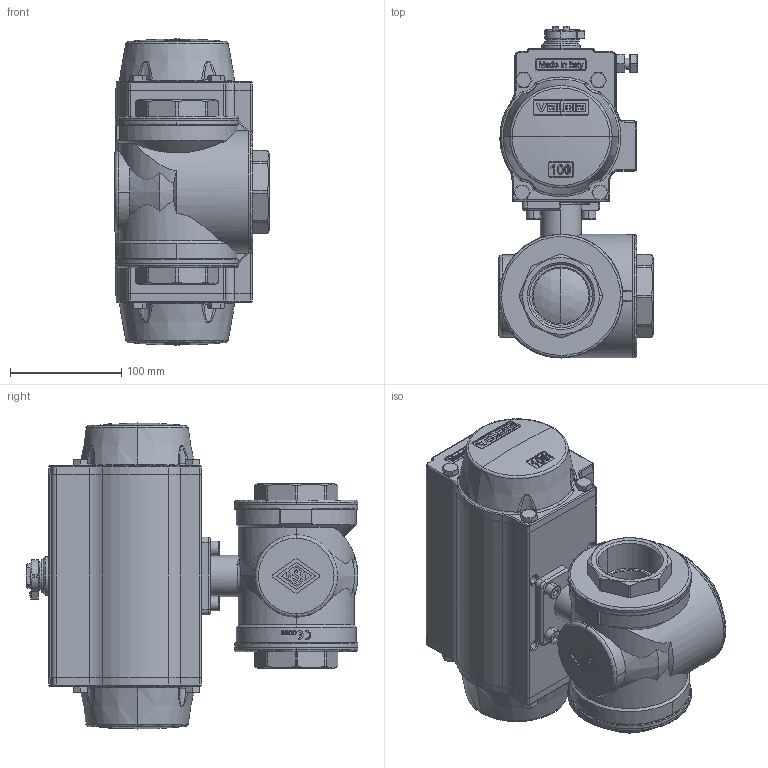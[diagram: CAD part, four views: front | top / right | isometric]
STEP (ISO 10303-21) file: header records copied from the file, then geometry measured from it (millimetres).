
FILE_DESCRIPTION (( 'STEP AP214' ), '1' );
FILE_NAME ('8P00860010.STEP', '2017-12-05T13:57:42', ( 'Bernardelli' ), ( 'Hewlett-Packard Company' ), 'SwSTEP 2.0', 'SolidWorks 2015', '' );
FILE_SCHEMA (( 'AUTOMOTIVE_DESIGN' ));
Length unit declared in the file: millimetre
Products named in the file (1): 8P00860010
Bounding box: 139 x 298.35 x 275.2 mm (x, y, z)
Volume: 3915808.8 mm3; surface area: 279989.8 mm2
Topology: 1 solids, 1 shells, 2228 faces, 6067 edges, 3813 vertices
Faces by surface type: plane 1005, bspline 565, cylinder 374, cone 253, torus 19, sphere 12
Entity records: 128191 total; most frequent: CARTESIAN_POINT 66776, ORIENTED_EDGE 11680, DIRECTION 6781, EDGE_CURVE 5840, VERTEX_POINT 3729, B_SPLINE_CURVE_WITH_KNOTS 2819, EDGE_LOOP 2359, AXIS2_PLACEMENT_3D 2291
